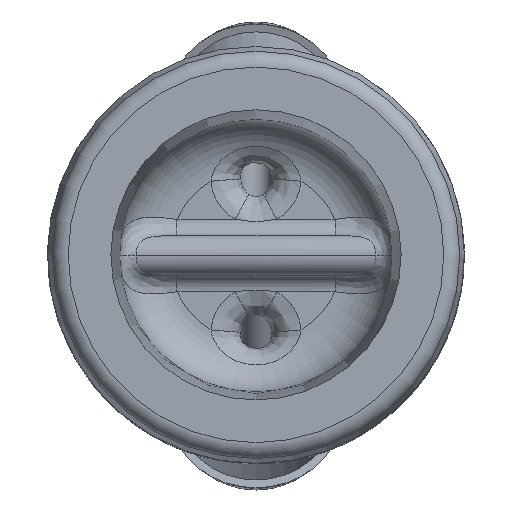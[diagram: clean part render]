
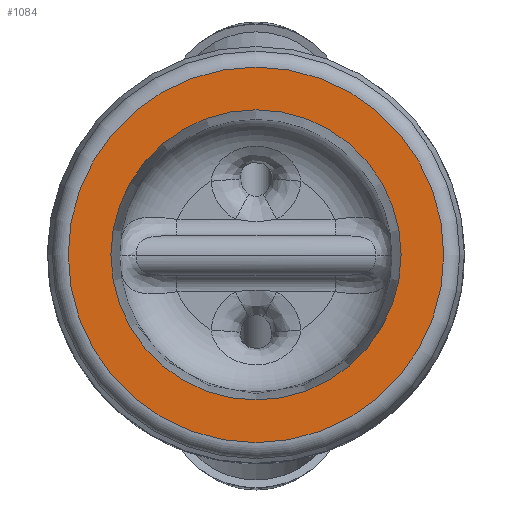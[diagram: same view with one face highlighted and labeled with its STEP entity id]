
A CAD part, top view. The second image highlights one B-rep face of the part: STEP entity #1084.
In plain terms, the highlighted planar face has unit normal (0, 0, 1).
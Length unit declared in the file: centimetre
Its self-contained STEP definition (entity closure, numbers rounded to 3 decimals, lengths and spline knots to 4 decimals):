
#140=PLANE('',#521);
#244=VERTEX_POINT('',#3617);
#250=VERTEX_POINT('',#3636);
#393=DIRECTION('',(0.,0.,-1.));
#394=DIRECTION('',(0.,1.118,0.));
#414=DIRECTION('',(0.,0.,-1.));
#415=DIRECTION('',(0.,-1.447,0.));
#420=DIRECTION('',(0.,0.,1.));
#505=AXIS2_PLACEMENT_3D('',#3616,#393,#394);
#518=AXIS2_PLACEMENT_3D('',#3635,#414,#415);
#521=AXIS2_PLACEMENT_3D('',#3640,#420,$);
#565=CIRCLE('',#505,1.1176);
#571=CIRCLE('',#518,1.4466);
#667=EDGE_CURVE('',#244,#244,#565,.T.);
#673=EDGE_CURVE('',#250,#250,#571,.T.);
#871=ORIENTED_EDGE('',*,*,#667,.T.);
#872=ORIENTED_EDGE('',*,*,#673,.F.);
#947=EDGE_LOOP('',(#871));
#948=EDGE_LOOP('',(#872));
#1023=FACE_BOUND('',#947,.T.);
#1024=FACE_BOUND('',#948,.T.);
#1084=ADVANCED_FACE('',(#1023,#1024),#140,.T.);
#3616=CARTESIAN_POINT('',(0.,0.,0.));
#3617=CARTESIAN_POINT('',(0.,1.1176,0.));
#3635=CARTESIAN_POINT('',(0.,0.,0.));
#3636=CARTESIAN_POINT('',(0.,1.4466,0.));
#3640=CARTESIAN_POINT('',(0.,0.772,0.));
